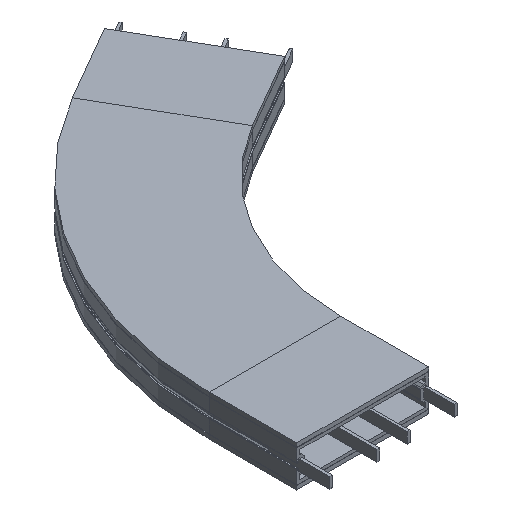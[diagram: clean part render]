
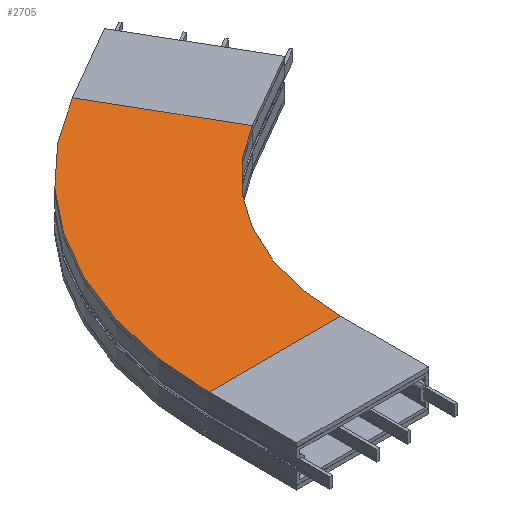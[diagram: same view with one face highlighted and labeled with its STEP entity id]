
A CAD part, isometric view. The second image highlights one B-rep face of the part: STEP entity #2705.
In plain terms, the highlighted planar face has unit normal (0, 0, 1).
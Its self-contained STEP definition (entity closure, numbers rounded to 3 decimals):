
#244 = FACE_OUTER_BOUND ( 'NONE', #315, .T. ) ;
#303 = CARTESIAN_POINT ( 'NONE',  ( -850., 0., 46.5 ) ) ;
#315 = EDGE_LOOP ( 'NONE', ( #5619, #8927, #3330, #7262 ) ) ;
#390 = AXIS2_PLACEMENT_3D ( 'NONE', #5094, #402, #3540 ) ;
#402 = DIRECTION ( 'NONE',  ( 0., 0., 1. ) ) ;
#450 = DIRECTION ( 'NONE',  ( -0.5, 0.866, 0. ) ) ;
#523 = CARTESIAN_POINT ( 'NONE',  ( -425., 736.122, 46.5 ) ) ;
#691 = VECTOR ( 'NONE', #3928, 1000. ) ;
#1014 = EDGE_CURVE ( 'NONE', #6446, #2657, #1224, .T. ) ;
#1144 = CARTESIAN_POINT ( 'NONE',  ( 0., 0., 46.5 ) ) ;
#1224 = CIRCLE ( 'NONE', #3170, 550. ) ;
#1321 = VERTEX_POINT ( 'NONE', #6138 ) ;
#1671 = CARTESIAN_POINT ( 'NONE',  ( -425., 736.122, 46.5 ) ) ;
#1722 = EDGE_CURVE ( 'NONE', #6446, #3559, #4700, .T. ) ;
#2657 = VERTEX_POINT ( 'NONE', #2663 ) ;
#2663 = CARTESIAN_POINT ( 'NONE',  ( -550., 0., 46.5 ) ) ;
#2705 = ADVANCED_FACE ( 'NONE', ( #244 ), #8159, .T. ) ;
#2728 = DIRECTION ( 'NONE',  ( -0.5, 0.866, 0. ) ) ;
#2793 = EDGE_CURVE ( 'NONE', #3559, #1321, #10134, .T. ) ;
#3170 = AXIS2_PLACEMENT_3D ( 'NONE', #1144, #9820, #2728 ) ;
#3330 = ORIENTED_EDGE ( 'NONE', *, *, #1722, .T. ) ;
#3540 = DIRECTION ( 'NONE',  ( 1., 0., 0. ) ) ;
#3559 = VERTEX_POINT ( 'NONE', #523 ) ;
#3598 = LINE ( 'NONE', #303, #9903 ) ;
#3928 = DIRECTION ( 'NONE',  ( -0.5, 0.866, 0. ) ) ;
#4700 = LINE ( 'NONE', #1671, #691 ) ;
#5094 = CARTESIAN_POINT ( 'NONE',  ( -425., 736.122, 46.5 ) ) ;
#5619 = ORIENTED_EDGE ( 'NONE', *, *, #8553, .F. ) ;
#6030 = DIRECTION ( 'NONE',  ( 0., 0., 1. ) ) ;
#6138 = CARTESIAN_POINT ( 'NONE',  ( -850., 0., 46.5 ) ) ;
#6446 = VERTEX_POINT ( 'NONE', #10209 ) ;
#6765 = DIRECTION ( 'NONE',  ( -1., 0., 0. ) ) ;
#7262 = ORIENTED_EDGE ( 'NONE', *, *, #2793, .T. ) ;
#8159 = PLANE ( 'NONE',  #390 ) ;
#8312 = CARTESIAN_POINT ( 'NONE',  ( 0., 0., 46.5 ) ) ;
#8553 = EDGE_CURVE ( 'NONE', #2657, #1321, #3598, .T. ) ;
#8638 = AXIS2_PLACEMENT_3D ( 'NONE', #8312, #6030, #450 ) ;
#8927 = ORIENTED_EDGE ( 'NONE', *, *, #1014, .F. ) ;
#9820 = DIRECTION ( 'NONE',  ( 0., 0., 1. ) ) ;
#9903 = VECTOR ( 'NONE', #6765, 1000. ) ;
#10134 = CIRCLE ( 'NONE', #8638, 850. ) ;
#10209 = CARTESIAN_POINT ( 'NONE',  ( -275., 476.314, 46.5 ) ) ;
